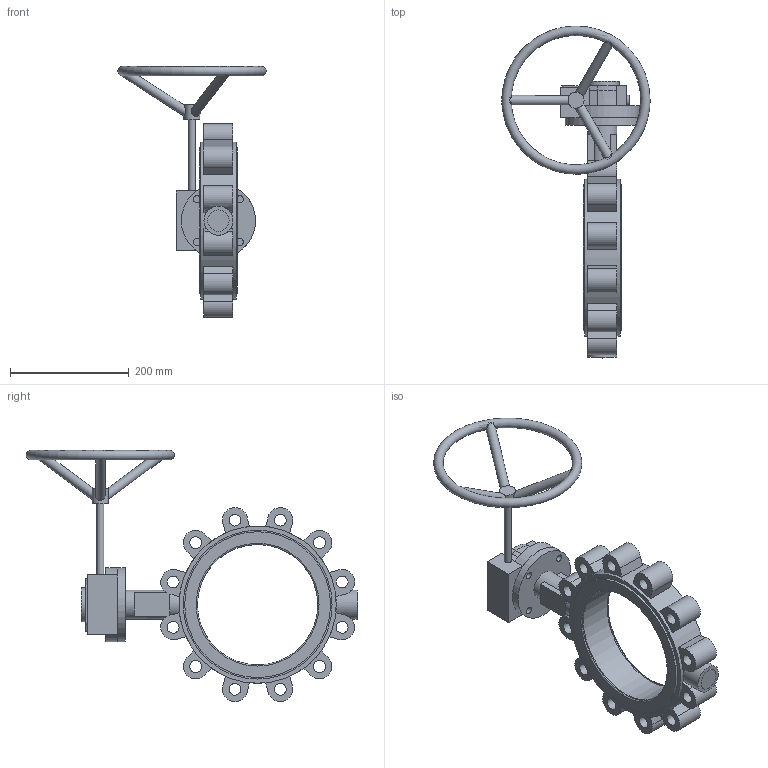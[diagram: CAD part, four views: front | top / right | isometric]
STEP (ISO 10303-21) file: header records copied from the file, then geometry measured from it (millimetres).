
FILE_DESCRIPTION (( 'STEP AP203' ), '1' );
FILE_NAME ('2502 LT型中线衬胶带销 手动头蝶阀 DN200 PN16 CD0309121.STEP', '2026-03-26T06:47:51', ( '' ), ( '' ), 'SwSTEP 2.0', 'SolidWorks 2018', '' );
FILE_SCHEMA (( 'CONFIG_CONTROL_DESIGN' ));
Length unit declared in the file: millimetre
Products named in the file (5): 2502 LT型中线衬胶带销 手动头蝶阀 DN200 PN16 CD0309121; GALA-D200-01LCN(2)-00; G35 潠趙; GALA-D200-04AZC-00; M30X1.5内六角螺塞
Assembly tree (4 placements, depth 2):
  2502 LT型中线衬胶带销 手动头蝶阀 DN200 PN16 CD0309121
    GALA-D200-04AZC-00
    M30X1.5内六角螺塞
    GALA-D200-01LCN(2)-00
    G35 潠趙
Bounding box: 249.99 x 559.23 x 423.39 mm (x, y, z)
Volume: 3213898 mm3; surface area: 550855.1 mm2
Topology: 4 solids, 5 shells, 200 faces, 503 edges, 331 vertices
Faces by surface type: plane 111, cylinder 64, cone 10, bspline 10, torus 5
Full cylindrical faces by diameter (mm): 12 x5, 16 x3, 17 x2, 20 x12, 27 x1, 30 x1, 36 x1, 49 x2, 57 x1, 125 x1, 202.908 x1, 212.997 x1, 213 x1, 246 x2, 251 x2, 265 x1
Entity records: 8566 total; most frequent: CARTESIAN_POINT 3510, DIRECTION 912, ORIENTED_EDGE 876, EDGE_CURVE 438, AXIS2_PLACEMENT_3D 348, VERTEX_POINT 317, EDGE_LOOP 309, FACE_OUTER_BOUND 238
